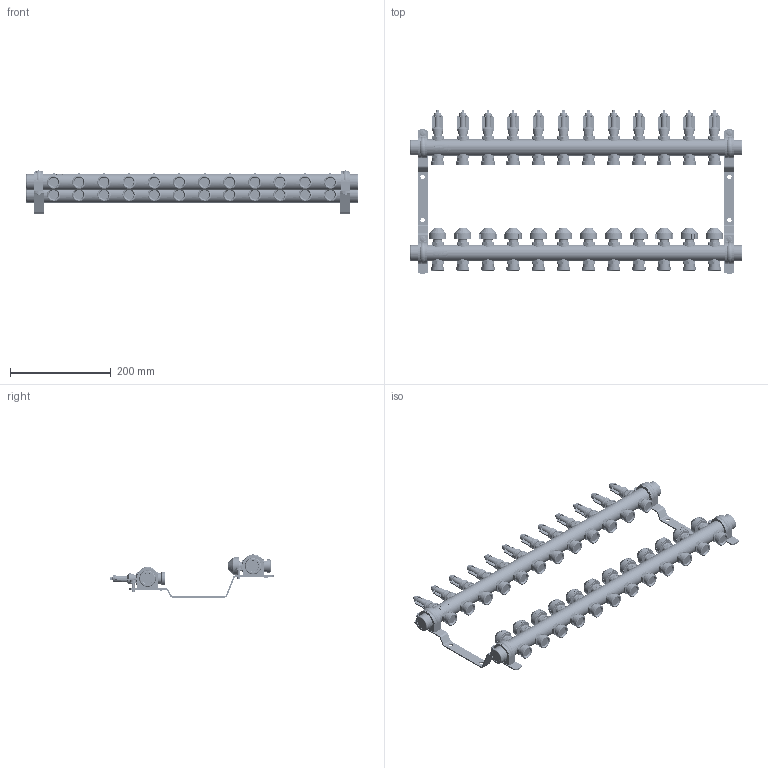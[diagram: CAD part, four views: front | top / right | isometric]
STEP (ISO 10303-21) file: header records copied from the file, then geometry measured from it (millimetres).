
FILE_DESCRIPTION((''),'2;1');
FILE_NAME('C:\Users\duckj\Desktop\10026194.stp','2017-04-21T08:10:31',('duckj'),(''),'Autodesk Inventor 2013','Autodesk Inventor 2013','');
FILE_SCHEMA(('CONFIG_CONTROL_DESIGN'));
Length unit declared in the file: millimetre
Products named in the file (4): 20042017_018; 26102016_005; 20042017_020; 20042017_021
Assembly tree (4 placements, depth 2):
  20042017_018
    26102016_005  x2
    20042017_020
    20042017_021
Bounding box: 660 x 325.94 x 85.7 mm (x, y, z)
Volume: 1811300.8 mm3; surface area: 341416.8 mm2
Topology: 4 solids, 4 shells, 6440 faces, 17215 edges, 11117 vertices
Faces by surface type: plane 3564, cylinder 1115, cone 815, bspline 802, torus 140, sphere 4
Full cylindrical faces by diameter (mm): 3 x12, 6 x8, 8.5 x4, 12 x4, 15 x12, 15.5 x12, 16.5 x12, 18 x12, 19.5 x12, 21.8 x48, 22 x76, 26.441 x24, 31.8 x4, 33 x4, 33.7 x12
Entity records: 254417 total; most frequent: CARTESIAN_POINT 101046, ORIENTED_EDGE 32364, DIRECTION 27467, EDGE_CURVE 16182, VERTEX_POINT 10727, AXIS2_PLACEMENT_3D 9380, VECTOR 8707, LINE 8707
